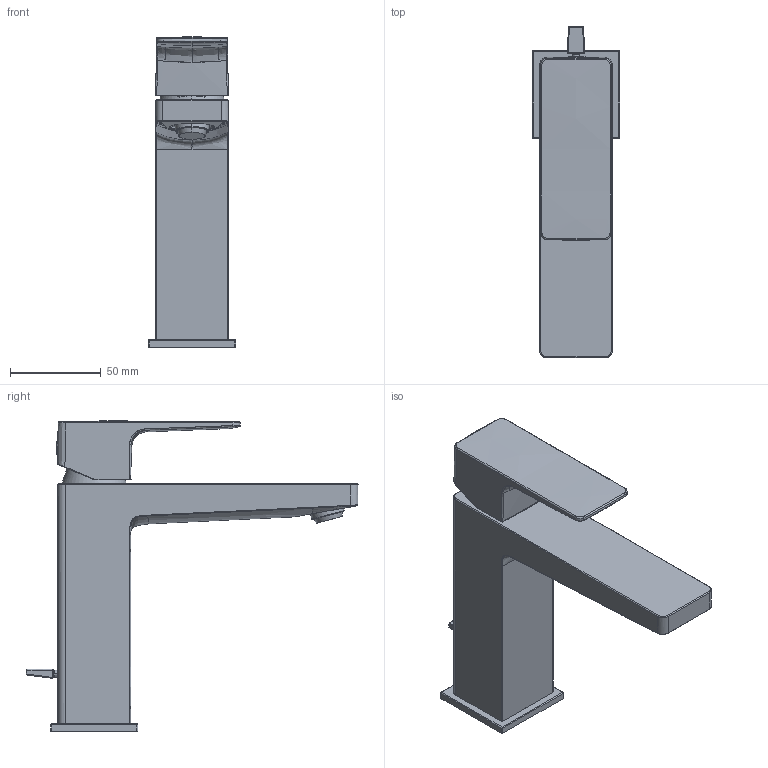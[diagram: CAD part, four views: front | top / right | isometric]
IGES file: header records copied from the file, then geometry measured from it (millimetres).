
Global section: file name: d:\users\matthias.isele\Desktop\Planungsdaten_erstellen\Armaturen\Manhattan\MH1020001010_MH1020001045_MH1021001010_MH1021001046_MH1022001010_MH1022001046\3D\MH1020001010_MH1020001045_MH1021001010_MH1021001046_MH1022001010_MH1022001046.igs; native system: Rhinoceros ( Sep 13 2016 ); preprocessor: Trout Lake IGES 012 Sep 13 2016; date: 230105.074340; units: millimetre
Bounding box: 48 x 182.5 x 170.64 mm (x, y, z)
Surface area: 56511.2 mm2 (no closed solid volume)
Topology: 0 solids, 0 shells, 555 faces, 4494 edges, 4479 vertices
Faces by surface type: bspline 555
